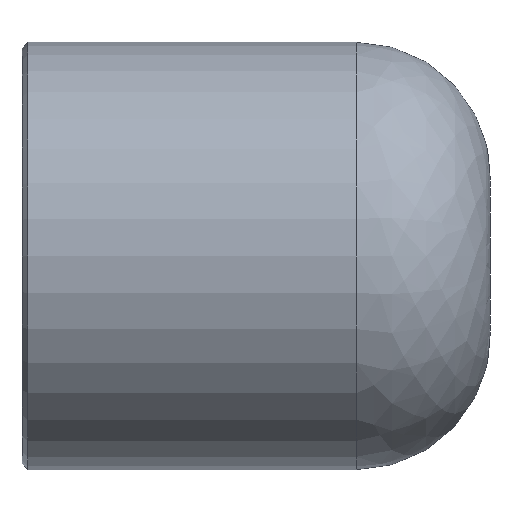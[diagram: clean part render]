
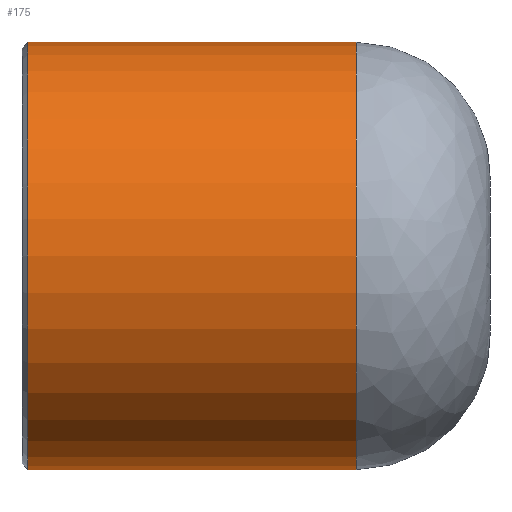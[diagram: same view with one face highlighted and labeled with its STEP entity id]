
A CAD part, front view. The second image highlights one B-rep face of the part: STEP entity #175.
In plain terms, the highlighted cylindrical face has radius 7.26 mm (diameter 14.52 mm), a full revolution.
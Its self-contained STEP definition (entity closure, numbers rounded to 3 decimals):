
#144=CARTESIAN_POINT('',(0.2,7.26,0.));
#145=VERTEX_POINT('',#144);
#146=CARTESIAN_POINT('',(0.2,0.0,0.0));
#147=DIRECTION('',(-1.0,0.0,0.0));
#148=DIRECTION('',(0.0,-1.0,0.0));
#149=AXIS2_PLACEMENT_3D('',#146,#147,#148);
#150=CIRCLE('',#149,7.26);
#151=EDGE_CURVE('',#145,#145,#150,.T.);
#156=CARTESIAN_POINT('',(5.675,0.0,0.0));
#157=DIRECTION('',(1.0,0.0,0.0));
#158=DIRECTION('',(0.0,1.0,0.0));
#159=AXIS2_PLACEMENT_3D('',#156,#157,#158);
#160=CYLINDRICAL_SURFACE('',#159,7.26);
#161=CARTESIAN_POINT('',(11.35,7.26,0.0));
#162=VERTEX_POINT('',#161);
#163=CARTESIAN_POINT('',(11.35,0.0,0.0));
#164=DIRECTION('',(1.0,0.0,0.0));
#165=DIRECTION('',(0.0,1.0,0.0));
#166=AXIS2_PLACEMENT_3D('',#163,#164,#165);
#167=CIRCLE('',#166,7.26);
#168=EDGE_CURVE('',#162,#162,#167,.T.);
#169=ORIENTED_EDGE('',*,*,#168,.F.);
#170=EDGE_LOOP('',(#169));
#171=FACE_OUTER_BOUND('',#170,.T.);
#172=ORIENTED_EDGE('',*,*,#151,.F.);
#173=EDGE_LOOP('',(#172));
#174=FACE_BOUND('',#173,.T.);
#175=ADVANCED_FACE('',(#171,#174),#160,.T.);
